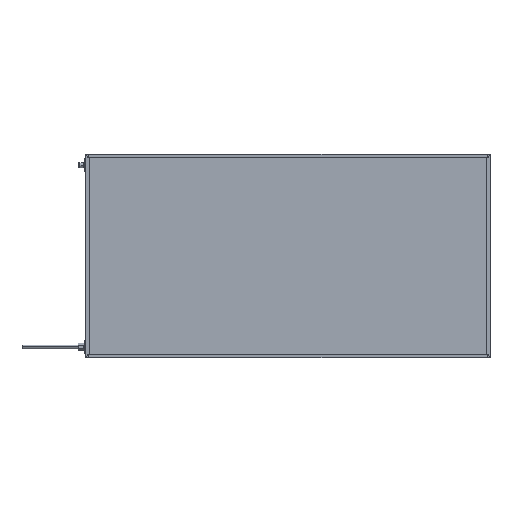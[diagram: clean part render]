
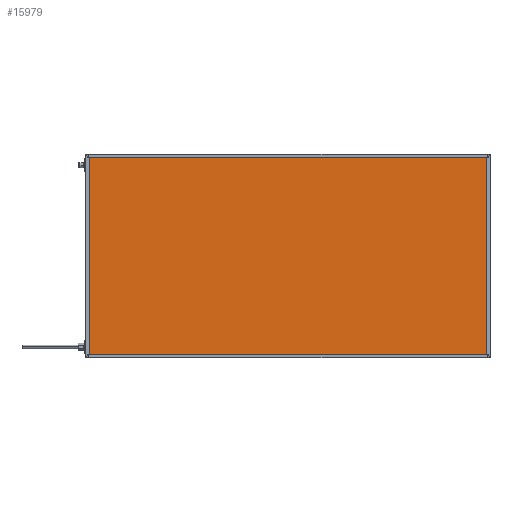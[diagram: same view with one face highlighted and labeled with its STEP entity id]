
A CAD part, top view. The second image highlights one B-rep face of the part: STEP entity #15979.
In plain terms, the highlighted planar face has unit normal (0, 0, 1).
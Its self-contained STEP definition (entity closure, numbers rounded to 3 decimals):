
#863 = ORIENTED_EDGE ( 'NONE', *, *, #13686, .T. ) ;
#1180 = EDGE_CURVE ( 'NONE', #16162, #6700, #4102, .T. ) ;
#2012 = LINE ( 'NONE', #14604, #4962 ) ;
#2555 = DIRECTION ( 'NONE',  ( 0., -1., 0. ) ) ;
#3074 = DIRECTION ( 'NONE',  ( -1., 0., 0. ) ) ;
#3463 = DIRECTION ( 'NONE',  ( -1., 0., 0. ) ) ;
#3826 = CARTESIAN_POINT ( 'NONE',  ( 4., 0., 41.85 ) ) ;
#4067 = LINE ( 'NONE', #6889, #12427 ) ;
#4102 = LINE ( 'NONE', #3826, #14412 ) ;
#4540 = CARTESIAN_POINT ( 'NONE',  ( 996., 496., 41.85 ) ) ;
#4620 = ORIENTED_EDGE ( 'NONE', *, *, #4777, .T. ) ;
#4631 = VERTEX_POINT ( 'NONE', #4540 ) ;
#4777 = EDGE_CURVE ( 'NONE', #9900, #4631, #17009, .T. ) ;
#4962 = VECTOR ( 'NONE', #3463, 1000. ) ;
#6182 = CARTESIAN_POINT ( 'NONE',  ( 4., 4., 41.85 ) ) ;
#6700 = VERTEX_POINT ( 'NONE', #6182 ) ;
#6797 = DIRECTION ( 'NONE',  ( 1., 0., 0. ) ) ;
#6889 = CARTESIAN_POINT ( 'NONE',  ( 0., 4., 41.85 ) ) ;
#8392 = CARTESIAN_POINT ( 'NONE',  ( 996., 4., 41.85 ) ) ;
#8636 = CARTESIAN_POINT ( 'NONE',  ( 0., 0., 41.85 ) ) ;
#8713 = CARTESIAN_POINT ( 'NONE',  ( 996., 0., 41.85 ) ) ;
#8955 = AXIS2_PLACEMENT_3D ( 'NONE', #8636, #12847, #3074 ) ;
#9362 = EDGE_LOOP ( 'NONE', ( #4620, #10010, #17997, #863 ) ) ;
#9900 = VERTEX_POINT ( 'NONE', #8392 ) ;
#9988 = DIRECTION ( 'NONE',  ( 0., 1., 0. ) ) ;
#9996 = EDGE_CURVE ( 'NONE', #4631, #16162, #2012, .T. ) ;
#10010 = ORIENTED_EDGE ( 'NONE', *, *, #9996, .T. ) ;
#10370 = VECTOR ( 'NONE', #9988, 1000. ) ;
#11433 = CARTESIAN_POINT ( 'NONE',  ( 4., 496., 41.85 ) ) ;
#11574 = PLANE ( 'NONE',  #8955 ) ;
#12427 = VECTOR ( 'NONE', #6797, 1000. ) ;
#12847 = DIRECTION ( 'NONE',  ( 0., 0., -1. ) ) ;
#13686 = EDGE_CURVE ( 'NONE', #6700, #9900, #4067, .T. ) ;
#14412 = VECTOR ( 'NONE', #2555, 1000. ) ;
#14493 = FACE_OUTER_BOUND ( 'NONE', #9362, .T. ) ;
#14604 = CARTESIAN_POINT ( 'NONE',  ( 0., 496., 41.85 ) ) ;
#15979 = ADVANCED_FACE ( 'NONE', ( #14493 ), #11574, .F. ) ;
#16162 = VERTEX_POINT ( 'NONE', #11433 ) ;
#17009 = LINE ( 'NONE', #8713, #10370 ) ;
#17997 = ORIENTED_EDGE ( 'NONE', *, *, #1180, .T. ) ;
